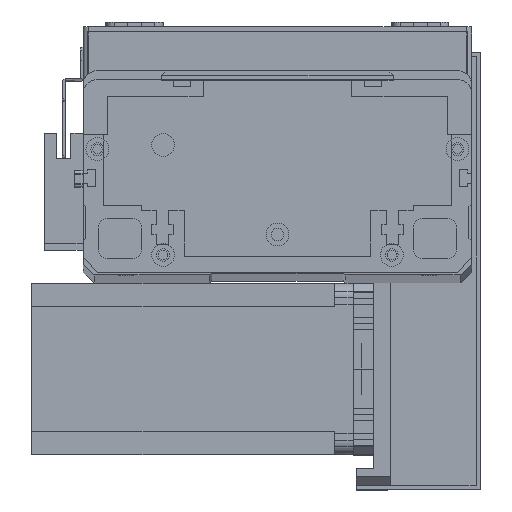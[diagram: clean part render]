
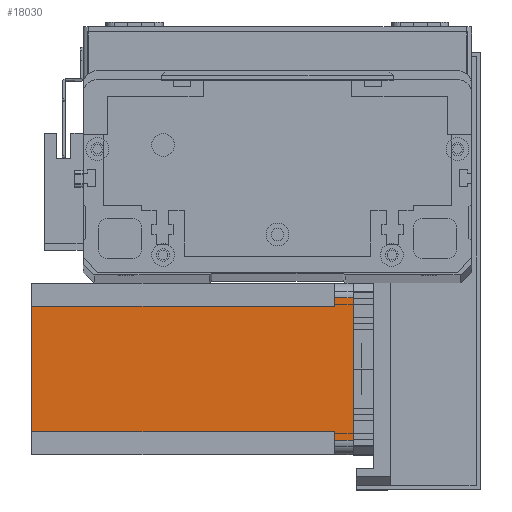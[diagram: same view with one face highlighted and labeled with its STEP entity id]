
A CAD part, top view. The second image highlights one B-rep face of the part: STEP entity #18030.
In plain terms, the highlighted planar face has unit normal (0, 0, 1) as drawn and (0, -1, 0) by its records, which use the part's own axes.
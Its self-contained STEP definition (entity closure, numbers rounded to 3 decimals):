
#543 = CARTESIAN_POINT ( 'NONE',  ( 0., 0., -112.5 ) ) ;
#1086 = VECTOR ( 'NONE', #15480, 1000. ) ;
#2282 = CARTESIAN_POINT ( 'NONE',  ( 8., 0., -6.5 ) ) ;
#2932 = DIRECTION ( 'NONE',  ( 0., -1., 0. ) ) ;
#3900 = VECTOR ( 'NONE', #6957, 1000. ) ;
#4631 = VERTEX_POINT ( 'NONE', #28853 ) ;
#4658 = AXIS2_PLACEMENT_3D ( 'NONE', #543, #2932, #19281 ) ;
#4915 = FACE_OUTER_BOUND ( 'NONE', #29770, .T. ) ;
#5191 = VERTEX_POINT ( 'NONE', #27046 ) ;
#5255 = EDGE_CURVE ( 'NONE', #4631, #5191, #7396, .T. ) ;
#5376 = VECTOR ( 'NONE', #12757, 1000. ) ;
#5663 = LINE ( 'NONE', #21418, #23482 ) ;
#5700 = VECTOR ( 'NONE', #21859, 1000. ) ;
#6957 = DIRECTION ( 'NONE',  ( 0., 0., 1. ) ) ;
#7389 = EDGE_CURVE ( 'NONE', #22910, #13733, #18261, .T. ) ;
#7396 = LINE ( 'NONE', #15258, #1086 ) ;
#7441 = VERTEX_POINT ( 'NONE', #29046 ) ;
#7742 = ORIENTED_EDGE ( 'NONE', *, *, #7389, .F. ) ;
#7899 = CARTESIAN_POINT ( 'NONE',  ( 5., 0., 0. ) ) ;
#9184 = CARTESIAN_POINT ( 'NONE',  ( 55., 0., 0. ) ) ;
#10044 = ORIENTED_EDGE ( 'NONE', *, *, #14299, .T. ) ;
#10867 = LINE ( 'NONE', #26420, #5376 ) ;
#11940 = LINE ( 'NONE', #12571, #5700 ) ;
#12411 = DIRECTION ( 'NONE',  ( 0., 0., -1. ) ) ;
#12571 = CARTESIAN_POINT ( 'NONE',  ( 5., 0., -112.5 ) ) ;
#12757 = DIRECTION ( 'NONE',  ( -1., 0., 0. ) ) ;
#13733 = VERTEX_POINT ( 'NONE', #9184 ) ;
#14299 = EDGE_CURVE ( 'NONE', #5191, #13733, #18207, .T. ) ;
#14638 = PLANE ( 'NONE',  #4658 ) ;
#15258 = CARTESIAN_POINT ( 'NONE',  ( 52., 0., -6.5 ) ) ;
#15378 = DIRECTION ( 'NONE',  ( 1., 0., 0. ) ) ;
#15480 = DIRECTION ( 'NONE',  ( 1., 0., 0. ) ) ;
#15971 = DIRECTION ( 'NONE',  ( 0., 0., 1. ) ) ;
#16035 = LINE ( 'NONE', #21615, #22176 ) ;
#16525 = ORIENTED_EDGE ( 'NONE', *, *, #22038, .F. ) ;
#16668 = DIRECTION ( 'NONE',  ( 1., 0., 0. ) ) ;
#17586 = CARTESIAN_POINT ( 'NONE',  ( 52., 0., -112.5 ) ) ;
#18003 = EDGE_CURVE ( 'NONE', #7441, #19553, #5663, .T. ) ;
#18030 = ADVANCED_FACE ( 'NONE', ( #4915 ), #14638, .T. ) ;
#18207 = LINE ( 'NONE', #27255, #22882 ) ;
#18261 = LINE ( 'NONE', #19987, #23669 ) ;
#18568 = CARTESIAN_POINT ( 'NONE',  ( 8., 0., -112.5 ) ) ;
#19281 = DIRECTION ( 'NONE',  ( 0., 0., -1. ) ) ;
#19318 = ORIENTED_EDGE ( 'NONE', *, *, #5255, .T. ) ;
#19553 = VERTEX_POINT ( 'NONE', #17586 ) ;
#19987 = CARTESIAN_POINT ( 'NONE',  ( 0., 0., 0. ) ) ;
#21075 = LINE ( 'NONE', #18568, #3900 ) ;
#21418 = CARTESIAN_POINT ( 'NONE',  ( 0., 0., -112.5 ) ) ;
#21571 = VERTEX_POINT ( 'NONE', #23319 ) ;
#21615 = CARTESIAN_POINT ( 'NONE',  ( 52., 0., -112.5 ) ) ;
#21667 = ORIENTED_EDGE ( 'NONE', *, *, #29741, .F. ) ;
#21729 = EDGE_CURVE ( 'NONE', #4631, #19553, #16035, .T. ) ;
#21859 = DIRECTION ( 'NONE',  ( 0., 0., -1. ) ) ;
#22038 = EDGE_CURVE ( 'NONE', #7441, #27064, #21075, .T. ) ;
#22176 = VECTOR ( 'NONE', #12411, 1000. ) ;
#22882 = VECTOR ( 'NONE', #15971, 1000. ) ;
#22910 = VERTEX_POINT ( 'NONE', #7899 ) ;
#23319 = CARTESIAN_POINT ( 'NONE',  ( 5., 0., -6.5 ) ) ;
#23482 = VECTOR ( 'NONE', #16668, 1000. ) ;
#23632 = EDGE_CURVE ( 'NONE', #22910, #21571, #11940, .T. ) ;
#23668 = ORIENTED_EDGE ( 'NONE', *, *, #21729, .F. ) ;
#23669 = VECTOR ( 'NONE', #15378, 1000. ) ;
#23750 = ORIENTED_EDGE ( 'NONE', *, *, #18003, .T. ) ;
#26420 = CARTESIAN_POINT ( 'NONE',  ( 8., 0., -6.5 ) ) ;
#27046 = CARTESIAN_POINT ( 'NONE',  ( 55., 0., -6.5 ) ) ;
#27064 = VERTEX_POINT ( 'NONE', #2282 ) ;
#27255 = CARTESIAN_POINT ( 'NONE',  ( 55., 0., -112.5 ) ) ;
#28853 = CARTESIAN_POINT ( 'NONE',  ( 52., 0., -6.5 ) ) ;
#29035 = ORIENTED_EDGE ( 'NONE', *, *, #23632, .T. ) ;
#29046 = CARTESIAN_POINT ( 'NONE',  ( 8., 0., -112.5 ) ) ;
#29741 = EDGE_CURVE ( 'NONE', #27064, #21571, #10867, .T. ) ;
#29770 = EDGE_LOOP ( 'NONE', ( #19318, #10044, #7742, #29035, #21667, #16525, #23750, #23668 ) ) ;
